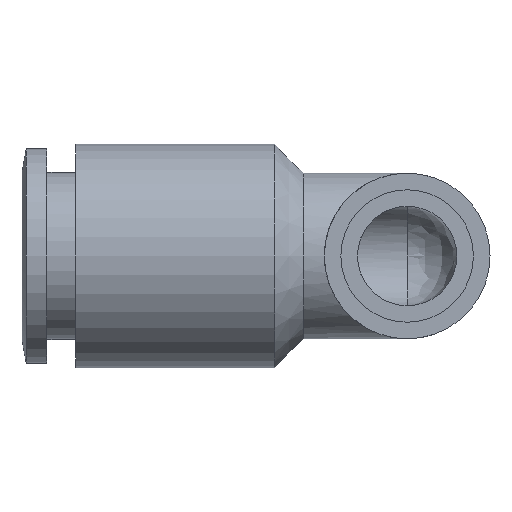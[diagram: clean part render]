
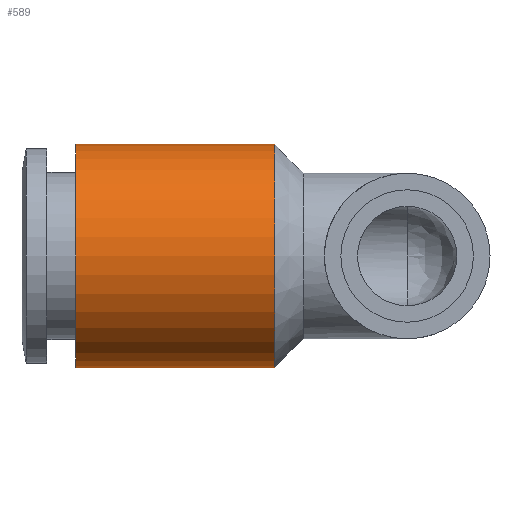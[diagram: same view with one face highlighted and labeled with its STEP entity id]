
A CAD part, left-side view. The second image highlights one B-rep face of the part: STEP entity #589.
In plain terms, the highlighted cylindrical face has radius 6.75 mm (diameter 13.5 mm), a full revolution.
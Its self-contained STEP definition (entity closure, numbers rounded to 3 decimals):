
#555=CARTESIAN_POINT('',(-6.75,8.,0.0));
#556=VERTEX_POINT('',#555);
#557=CARTESIAN_POINT('',(0.0,8.,0.0));
#558=DIRECTION('',(0.0,1.0,0.0));
#559=DIRECTION('',(-1.0,0.0,0.0));
#560=AXIS2_PLACEMENT_3D('',#557,#558,#559);
#561=CIRCLE('',#560,6.75);
#562=EDGE_CURVE('',#556,#556,#561,.T.);
#570=CARTESIAN_POINT('',(0.0,14.0,0.0));
#571=DIRECTION('',(0.0,1.0,0.0));
#572=DIRECTION('',(-1.0,0.0,0.0));
#573=AXIS2_PLACEMENT_3D('',#570,#571,#572);
#574=CYLINDRICAL_SURFACE('',#573,6.75);
#575=CARTESIAN_POINT('',(-6.75,20.0,0.0));
#576=VERTEX_POINT('',#575);
#577=CARTESIAN_POINT('',(0.0,20.0,0.0));
#578=DIRECTION('',(0.0,1.0,0.0));
#579=DIRECTION('',(-1.0,0.0,0.0));
#580=AXIS2_PLACEMENT_3D('',#577,#578,#579);
#581=CIRCLE('',#580,6.75);
#582=EDGE_CURVE('',#576,#576,#581,.T.);
#583=ORIENTED_EDGE('',*,*,#582,.F.);
#584=EDGE_LOOP('',(#583));
#585=FACE_OUTER_BOUND('',#584,.T.);
#586=ORIENTED_EDGE('',*,*,#562,.T.);
#587=EDGE_LOOP('',(#586));
#588=FACE_BOUND('',#587,.T.);
#589=ADVANCED_FACE('',(#585,#588),#574,.T.);
